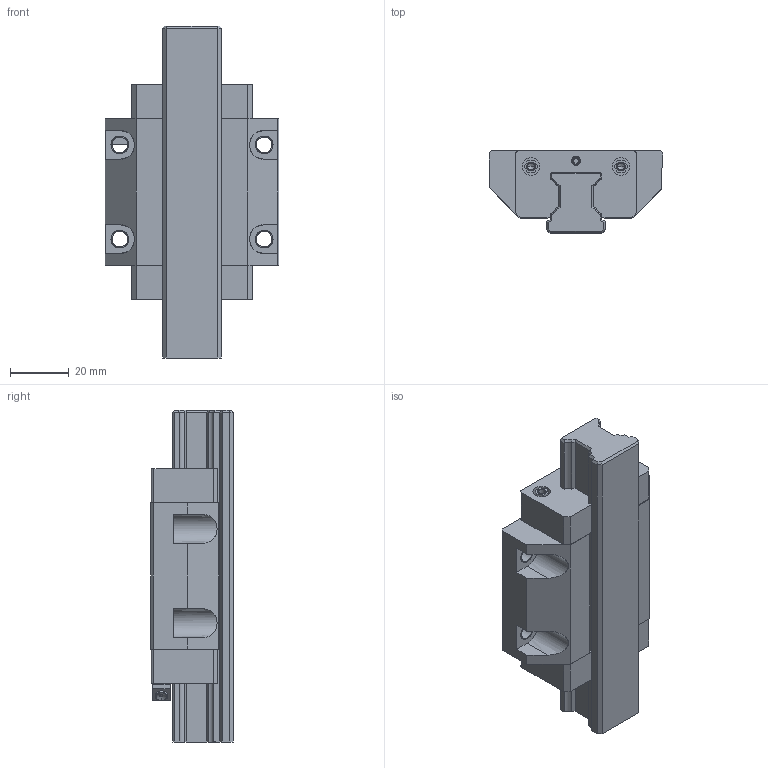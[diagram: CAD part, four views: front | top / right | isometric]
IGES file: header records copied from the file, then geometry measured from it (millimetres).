
Start section: 3D InterOp IGES (v. 2019 1.0.2), Spatial Corp. Copyright (c) 1999-2017.
Global section: file name: R1692_size20.igs; native system: Spatial Corp.; preprocessor: 3D InterOp GENERIC/IGES 3.0; author: Noname; organization: Noname; date: 20220629.125034; units: millimetre
Bounding box: 59 x 28 x 112.7 mm (x, y, z)
Surface area: 33562.5 mm2 (no closed solid volume)
Topology: 0 solids, 0 shells, 328 faces, 1868 edges, 1856 vertices
Faces by surface type: extrusion 197, revolution 131
